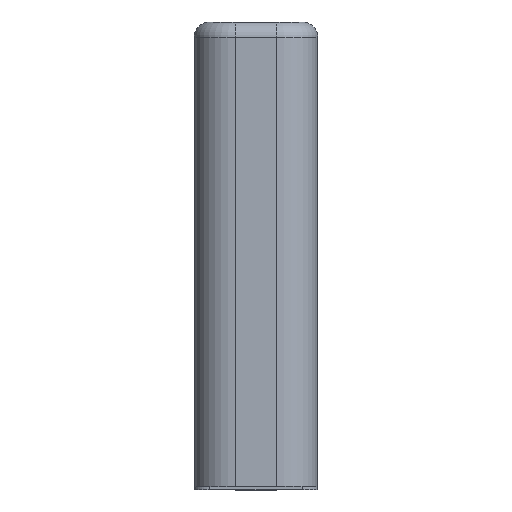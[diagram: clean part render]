
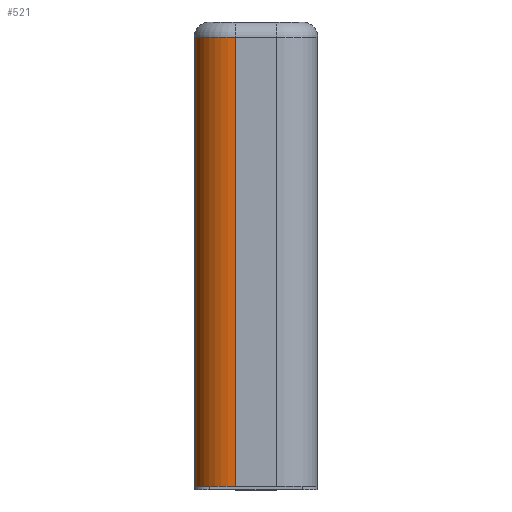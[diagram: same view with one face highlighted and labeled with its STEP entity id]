
A CAD part, top view. The second image highlights one B-rep face of the part: STEP entity #521.
In plain terms, the highlighted cylindrical face has radius 2.667 mm (diameter 5.333 mm), a partial arc.
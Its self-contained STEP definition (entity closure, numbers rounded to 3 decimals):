
#88 = ORIENTED_EDGE ( 'NONE', *, *, #260, .T. ) ;
#119 = AXIS2_PLACEMENT_3D ( 'NONE', #1607, #449, #1431 ) ;
#168 = DIRECTION ( 'NONE',  ( 0., -1., 0. ) ) ;
#185 = EDGE_CURVE ( 'NONE', #801, #1286, #1944, .T. ) ;
#258 = FACE_OUTER_BOUND ( 'NONE', #1728, .T. ) ;
#260 = EDGE_CURVE ( 'NONE', #499, #801, #1368, .T. ) ;
#276 = VECTOR ( 'NONE', #1805, 1000. ) ;
#392 = DIRECTION ( 'NONE',  ( 0., 0., 1. ) ) ;
#394 = VECTOR ( 'NONE', #168, 1000. ) ;
#412 = DIRECTION ( 'NONE',  ( 0., -1., 0. ) ) ;
#435 = CARTESIAN_POINT ( 'NONE',  ( -5., 29., -1.333 ) ) ;
#449 = DIRECTION ( 'NONE',  ( 0., -1., 0. ) ) ;
#499 = VERTEX_POINT ( 'NONE', #435 ) ;
#521 = ADVANCED_FACE ( 'NONE', ( #258 ), #1044, .T. ) ;
#535 = CARTESIAN_POINT ( 'NONE',  ( -2.333, 29., -4. ) ) ;
#585 = CARTESIAN_POINT ( 'NONE',  ( -2.333, 29., -1.333 ) ) ;
#671 = CARTESIAN_POINT ( 'NONE',  ( -2.333, 30., -4. ) ) ;
#689 = ORIENTED_EDGE ( 'NONE', *, *, #1206, .F. ) ;
#720 = LINE ( 'NONE', #945, #276 ) ;
#801 = VERTEX_POINT ( 'NONE', #535 ) ;
#865 = DIRECTION ( 'NONE',  ( 0., 1., 0. ) ) ;
#880 = CIRCLE ( 'NONE', #2078, 2.667 ) ;
#945 = CARTESIAN_POINT ( 'NONE',  ( -5., 30., -1.333 ) ) ;
#1044 = CYLINDRICAL_SURFACE ( 'NONE', #119, 2.667 ) ;
#1206 = EDGE_CURVE ( 'NONE', #499, #2000, #720, .T. ) ;
#1286 = VERTEX_POINT ( 'NONE', #1455 ) ;
#1368 = CIRCLE ( 'NONE', #1820, 2.667 ) ;
#1431 = DIRECTION ( 'NONE',  ( 0., 0., -1. ) ) ;
#1455 = CARTESIAN_POINT ( 'NONE',  ( -2.333, 0., -4. ) ) ;
#1533 = DIRECTION ( 'NONE',  ( 0., 0., 1. ) ) ;
#1587 = EDGE_CURVE ( 'NONE', #1286, #2000, #880, .T. ) ;
#1607 = CARTESIAN_POINT ( 'NONE',  ( -2.333, 30., -1.333 ) ) ;
#1728 = EDGE_LOOP ( 'NONE', ( #689, #88, #1888, #1743 ) ) ;
#1743 = ORIENTED_EDGE ( 'NONE', *, *, #1587, .T. ) ;
#1805 = DIRECTION ( 'NONE',  ( 0., -1., 0. ) ) ;
#1820 = AXIS2_PLACEMENT_3D ( 'NONE', #585, #412, #392 ) ;
#1882 = CARTESIAN_POINT ( 'NONE',  ( -2.333, 0., -1.333 ) ) ;
#1885 = CARTESIAN_POINT ( 'NONE',  ( -5., 0., -1.333 ) ) ;
#1888 = ORIENTED_EDGE ( 'NONE', *, *, #185, .T. ) ;
#1944 = LINE ( 'NONE', #671, #394 ) ;
#2000 = VERTEX_POINT ( 'NONE', #1885 ) ;
#2078 = AXIS2_PLACEMENT_3D ( 'NONE', #1882, #865, #1533 ) ;
